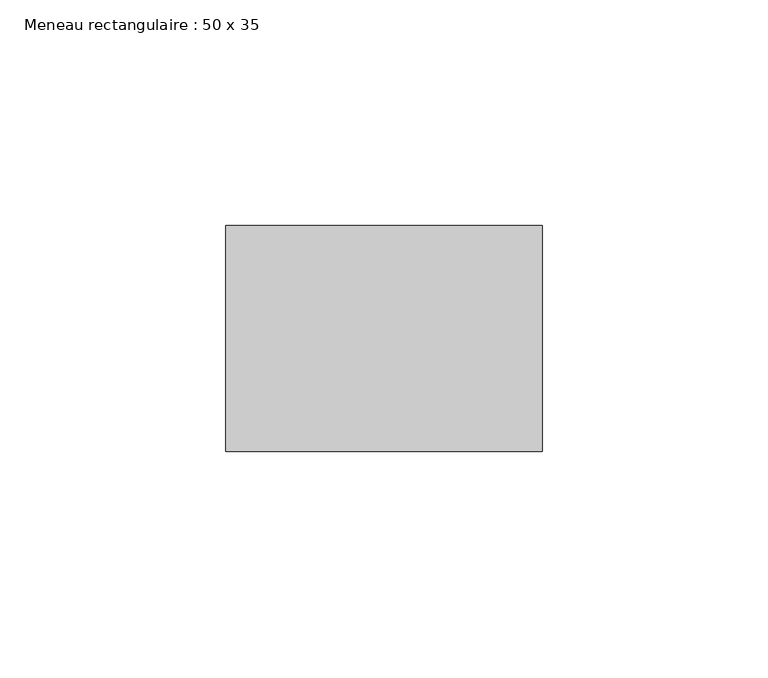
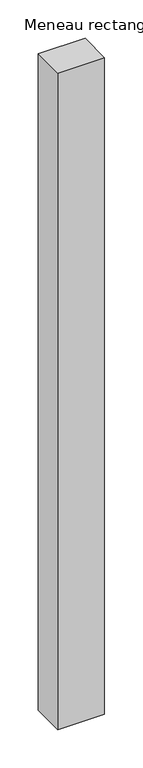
"""IFC4 building model written with IfcOpenShell, lengths in millimetres: member geometry, Meneau rectangulaire : 50 x 35."""

import ifcopenshell
import ifcopenshell.guid

model = None  # the IFC model being written
_history = None  # IfcOwnerHistory: only IFC2X3 demands one
_inside = {}  # id of a spatial element -> (the spatial element, [elements in it])
_under = {}  # id of a project, library or spatial element -> (it, [spatial elements below it])
_declared = {}  # id of a project -> (the project, [libraries it declares])
_typed = {}  # id of a type object -> (the type object, [elements of that type])
_made_of = {}  # id of a material, layer set ... -> (it, [elements and type objects made of it])


def new_model(schema):
    """Start an empty IFC model of exactly this schema.

    Asked for "IFC4X3", IfcOpenShell would pick the latest addendum, in which some entities
    have other attributes; the version numbers below select the first issue.
    IFC2X3 requires an IfcOwnerHistory on every rooted entity: one is made here for all.
    """
    global model, _history
    if schema == "IFC4X3":
        model = ifcopenshell.file(schema_version=(4, 3, 0, 0))
    else:
        model = ifcopenshell.file(schema=schema)
    _inside.clear()
    _under.clear()
    _declared.clear()
    _typed.clear()
    _made_of.clear()
    _history = None
    if model.schema == "IFC2X3":
        org = make("IfcOrganization", Name="unknown")
        user = make(
            "IfcPersonAndOrganization",
            ThePerson=make("IfcPerson", FamilyName="unknown"),
            TheOrganization=org,
        )
        app = make(
            "IfcApplication",
            ApplicationDeveloper=org,
            Version="unknown",
            ApplicationFullName="unknown",
            ApplicationIdentifier="unknown",
        )
        _history = make(
            "IfcOwnerHistory",
            OwningUser=user,
            OwningApplication=app,
            ChangeAction="ADDED",
            CreationDate=0,
        )
    return model


def make(cls, **values):
    """One entity of the class cls with the attributes given. An attribute that is None is left unset."""
    return model.create_entity(
        cls, **{name: value for name, value in values.items() if value is not None}
    )


def rooted(cls, **values):
    """An entity with a GlobalId (a new one), such as an element, a storey or a relation."""
    return make(cls, GlobalId=ifcopenshell.guid.new(), OwnerHistory=_history, **values)


def si_unit(unit_type, name, prefix=None):
    """IfcSIUnit, for example si_unit("LENGTHUNIT", "METRE", prefix="MILLI")."""
    return make("IfcSIUnit", UnitType=unit_type, Prefix=prefix, Name=name)


def assignment(units):
    """IfcUnitAssignment: the units of a project."""
    return None if units is None else make("IfcUnitAssignment", Units=units)


def point(xyz):
    """IfcCartesianPoint."""
    return None if xyz is None else make("IfcCartesianPoint", Coordinates=xyz)


def direction(xyz):
    """IfcDirection."""
    return None if xyz is None else make("IfcDirection", DirectionRatios=xyz)


def frame(location, z_axis=None, x_axis=None):
    """IfcAxis2Placement3D, a coordinate frame: its origin and axes. An axis left out is left unset."""
    return make(
        "IfcAxis2Placement3D",
        Location=point(location),
        Axis=direction(z_axis),
        RefDirection=direction(x_axis),
    )


def origin():
    """The frame at (0, 0, 0) with its axes left unset."""
    return frame((0.0, 0.0, 0.0))


def place(relative_to, where):
    """IfcLocalPlacement: puts the frame where relative to a parent placement (None: the world)."""
    return make(
        "IfcLocalPlacement", PlacementRelTo=relative_to, RelativePlacement=where
    )


def context(
    kind, dimensions, precision=None, world=None, true_north=None, identifier=None
):
    """IfcGeometricRepresentationContext, for example the 3D "Model" context."""
    return make(
        "IfcGeometricRepresentationContext",
        ContextIdentifier=identifier,
        ContextType=kind,
        CoordinateSpaceDimension=dimensions,
        Precision=precision,
        WorldCoordinateSystem=world,
        TrueNorth=true_north,
    )


def project(units=None, contexts=None):
    """IfcProject with its units and contexts."""
    return rooted(
        "IfcProject",
        Name="project",
        RepresentationContexts=contexts,
        UnitsInContext=assignment(units),
    )


def spatial(cls, under=None, at=None, **own):
    """A site, building, storey or space (cls), placed at a placement, below another one or the project."""
    s = rooted(cls, ObjectPlacement=at, **own)
    if under is not None:
        _under.setdefault(under.id(), (under, []))[1].append(s)
    return s


def polyline(points):
    """IfcPolyline through the points."""
    return make("IfcPolyline", Points=[point(p) for p in points])


def outline(outer, holes=None, kind="AREA"):
    """IfcArbitraryClosedProfileDef: a profile drawn as a closed curve; with holes, ...WithVoids."""
    if holes is None:
        return make("IfcArbitraryClosedProfileDef", ProfileType=kind, OuterCurve=outer)
    return make(
        "IfcArbitraryProfileDefWithVoids",
        ProfileType=kind,
        OuterCurve=outer,
        InnerCurves=holes,
    )


def extrude(swept, where, along, depth):
    """IfcExtrudedAreaSolid: the profile swept, set in the frame where, extruded along a direction by depth."""
    return make(
        "IfcExtrudedAreaSolid",
        SweptArea=swept,
        Position=where,
        ExtrudedDirection=direction(along),
        Depth=depth,
    )


def shape(context_of_items, identifier, shape_type, items):
    """IfcShapeRepresentation: the items that make up one representation, for example the "Body"."""
    return make(
        "IfcShapeRepresentation",
        ContextOfItems=context_of_items,
        RepresentationIdentifier=identifier,
        RepresentationType=shape_type,
        Items=items,
    )


def source(mapping_origin, context_of_items, identifier, shape_type, items):
    """IfcRepresentationMap: a shape defined once, which mapped items show again and again."""
    return make(
        "IfcRepresentationMap",
        MappingOrigin=mapping_origin,
        MappedRepresentation=shape(context_of_items, identifier, shape_type, items),
    )


def transform(
    local_origin,
    x_axis=None,
    y_axis=None,
    z_axis=None,
    scale=None,
    scale2=None,
    scale3=None,
    uniform=True,
):
    """IfcCartesianTransformationOperator3D, or its non-uniform kind. x_axis, y_axis, z_axis: its Axis1, 2, 3."""
    if uniform:
        return make(
            "IfcCartesianTransformationOperator3D",
            Axis1=direction(x_axis),
            Axis2=direction(y_axis),
            LocalOrigin=point(local_origin),
            Scale=scale,
            Axis3=direction(z_axis),
        )
    return make(
        "IfcCartesianTransformationOperator3DnonUniform",
        Axis1=direction(x_axis),
        Axis2=direction(y_axis),
        LocalOrigin=point(local_origin),
        Scale=scale,
        Axis3=direction(z_axis),
        Scale2=scale2,
        Scale3=scale3,
    )


def mapped(mapping_source, mapping_target):
    """IfcMappedItem: shows the shape of a source again, moved by a transform."""
    return make(
        "IfcMappedItem", MappingSource=mapping_source, MappingTarget=mapping_target
    )


def made_of(thing, what):
    """Note that an element or type object is made of a material, layer set ...; save() writes the relation."""
    if what is not None:
        _made_of.setdefault(what.id(), (what, []))[1].append(thing)
    return thing


def element(
    cls,
    number,
    at=None,
    inside=None,
    cuts=None,
    type_object=None,
    material=None,
    context=None,
    identifier="Body",
    shape_type=None,
    held_by="IfcProductDefinitionShape",
    body=None,
    shapes=None,
    **own,
):
    """One element of the class cls, such as IfcWall. Its Tag is "e" and its number.

    at: its placement. inside: the storey or other place that contains it. cuts: it is an
    opening in that element (IfcRelVoidsElement). A single representation is given by context,
    identifier, shape_type and body (its items); several are given by shapes. held_by: the class
    of the entity that holds the representations. save() writes the other relations.
    """
    e = rooted(cls, Tag="e%d" % number, ObjectPlacement=at, **own)
    if body is not None:
        shapes = [shape(context, identifier, shape_type, body)]
    if shapes is not None:
        e.Representation = make(held_by, Representations=shapes)
    if inside is not None:
        _inside.setdefault(inside.id(), (inside, []))[1].append(e)
    if cuts is not None:
        rooted(
            "IfcRelVoidsElement", RelatingBuildingElement=cuts, RelatedOpeningElement=e
        )
    if type_object is not None:
        _typed.setdefault(type_object.id(), (type_object, []))[1].append(e)
    return made_of(e, material)


def aggregate(whole, parts):
    """IfcRelAggregates: a whole, such as a stair, and the parts it consists of."""
    return rooted("IfcRelAggregates", RelatingObject=whole, RelatedObjects=parts)


def save(model, path):
    """Write the relations noted so far, then the file.

    IfcRelAggregates (storeys below a building ...), IfcRelContainedInSpatialStructure (elements
    in a storey), IfcRelDefinesByType, IfcRelAssociatesMaterial and IfcRelDeclares: one each for
    every whole, place, type object, material and project.
    """
    for whole, parts in _under.values():
        aggregate(whole, parts)
    for where, things in _inside.values():
        rooted(
            "IfcRelContainedInSpatialStructure",
            RelatedElements=things,
            RelatingStructure=where,
        )
    for kind, things in _typed.values():
        rooted("IfcRelDefinesByType", RelatedObjects=things, RelatingType=kind)
    for what, things in _made_of.values():
        rooted("IfcRelAssociatesMaterial", RelatedObjects=things, RelatingMaterial=what)
    for by, libraries in _declared.values():
        rooted("IfcRelDeclares", RelatingContext=by, RelatedDefinitions=libraries)
    model.write(path)


def meneau_rectangulaire_50_x_35_94cf3ba2(model_context):
    return source(origin(), model_context, "Body", "SweptSolid", [
        extrude(outline(polyline([(0.0, 0.0), (0.0, -50.0), (-70.0, -50.0), (-70.0, 0.0), (0.0, 0.0)])), frame((0.0, 0.0, -1041.0), z_axis=(0.0, 0.0, 1.0), x_axis=(1.0, 0.0, 0.0)), (0.0, 0.0, 1.0), 1041.0),
    ])


if __name__ == "__main__":
    model = new_model("IFC4")
    model_context = context("Model", 3, world=origin())
    ifc_project = project(units=[si_unit("LENGTHUNIT", "METRE", prefix="MILLI")], contexts=[model_context])
    site = spatial("IfcSite", under=ifc_project)
    building = spatial("IfcBuilding", under=site)
    placement = place(None, origin())
    meneau_rectangulaire_50_x_35_shape = meneau_rectangulaire_50_x_35_94cf3ba2(model_context)
    element("IfcMember", 1, ObjectType="Meneau rectangulaire : 50 x 35", at=placement, inside=building, context=model_context, shape_type="MappedRepresentation", body=[
        mapped(meneau_rectangulaire_50_x_35_shape, transform((0.0, 0.0, 0.0), x_axis=(1.0, 0.0, 0.0), y_axis=(0.0, 1.0, 0.0), z_axis=(0.0, 0.0, 1.0))),
    ])
    save(model, "model.ifc")
